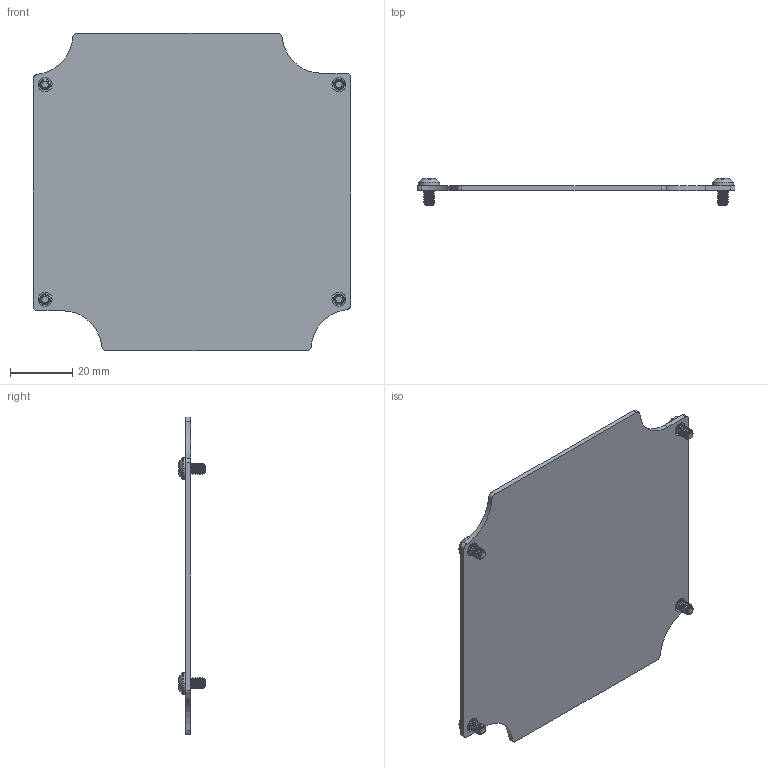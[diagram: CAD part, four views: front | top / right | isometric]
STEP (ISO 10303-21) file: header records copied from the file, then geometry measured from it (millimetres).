
FILE_DESCRIPTION (( 'STEP AP214' ), '1' );
FILE_NAME ('AN-09K.step', '2026-09-17T19:31:49', ( '' ), ( '' ), 'SwSTEP 2.0', 'SolidWorks 2026', '' );
FILE_SCHEMA (( 'AUTOMOTIVE_DESIGN' ));
Length unit declared in the file: inch
Products named in the file (3): AN-09-P_DEFAULT; SCREWS-050; AN-09K
Assembly tree (5 placements, depth 2):
  AN-09K
    AN-09-P_DEFAULT
    SCREWS-050  x4
Bounding box: 102.21 x 8.8 x 102.2 mm (x, y, z)
Volume: 15064.7 mm3; surface area: 20679.9 mm2
Topology: 5 solids, 5 shells, 1368 faces, 3306 edges, 1944 vertices
Faces by surface type: bspline 736, cylinder 332, plane 108, sphere 96, cone 80, torus 16
Entity records: 17338 total; most frequent: CARTESIAN_POINT 10049, ORIENTED_EDGE 1766, DIRECTION 1043, EDGE_CURVE 883, VERTEX_POINT 525, B_SPLINE_CURVE_WITH_KNOTS 415, AXIS2_PLACEMENT_3D 388, EDGE_LOOP 372
